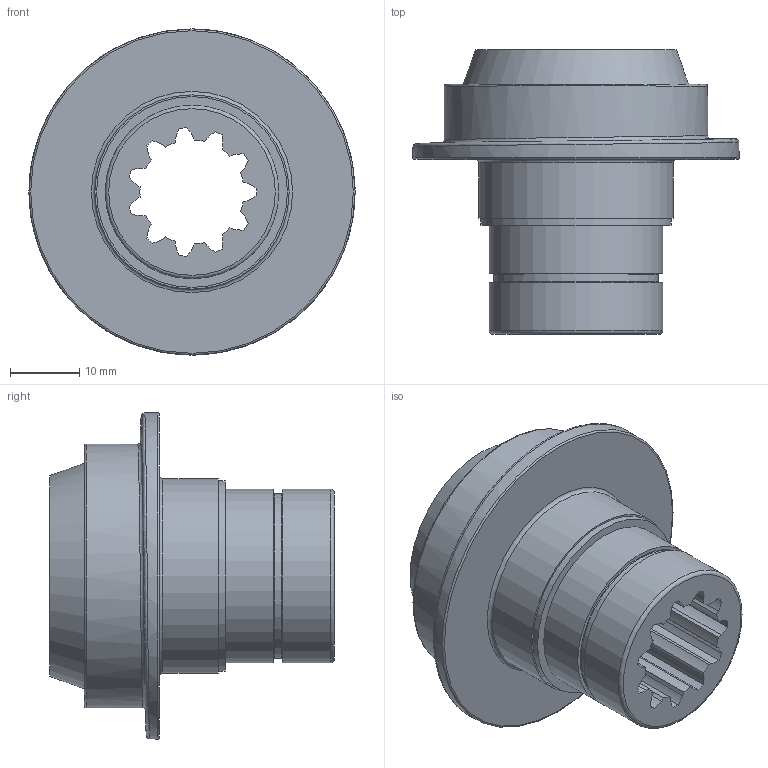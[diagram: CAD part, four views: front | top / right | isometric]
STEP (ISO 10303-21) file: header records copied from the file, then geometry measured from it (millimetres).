
FILE_DESCRIPTION(/* description */ (''),/* implementation_level */ '2;1');
FILE_NAME(/* name */ '23-桶驱动轴套.stp',/* time_stamp */ '2026-08-27T10:52:52+08:00',/* author */ (''),/* organization */ (''),/* preprocessor_version */ 'ST-DEVELOPER v16.7',/* originating_system */ 'SIEMENS PLM Software NX 12.0',/* authorisation */ '');
FILE_SCHEMA (('AUTOMOTIVE_DESIGN { 1 0 10303 214 3 1 1 1 }'));
Length unit declared in the file: millimetre
Products named in the file (1): 桶驱动轴套
Bounding box: 47 x 41 x 47 mm (x, y, z)
Volume: 20722.1 mm3; surface area: 9730 mm2
Topology: 1 solids, 1 shells, 131 faces, 327 edges, 199 vertices
Faces by surface type: cylinder 82, plane 24, bspline 11, torus 10, sphere 3, cone 1
Full cylindrical faces by diameter (mm): 19 x2, 20.5 x1, 23.8 x1, 25 x2, 27.5 x1, 28 x1, 47 x1
Entity records: 4541 total; most frequent: CARTESIAN_POINT 1477, DIRECTION 696, ORIENTED_EDGE 594, AXIS2_PLACEMENT_3D 308, EDGE_CURVE 297, VERTEX_POINT 194, CIRCLE 187, EDGE_LOOP 159
